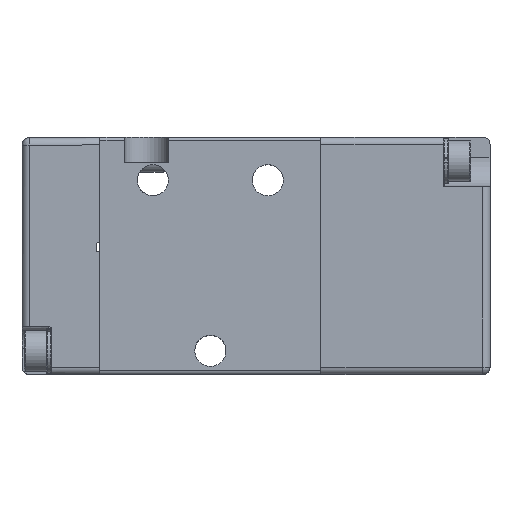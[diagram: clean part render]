
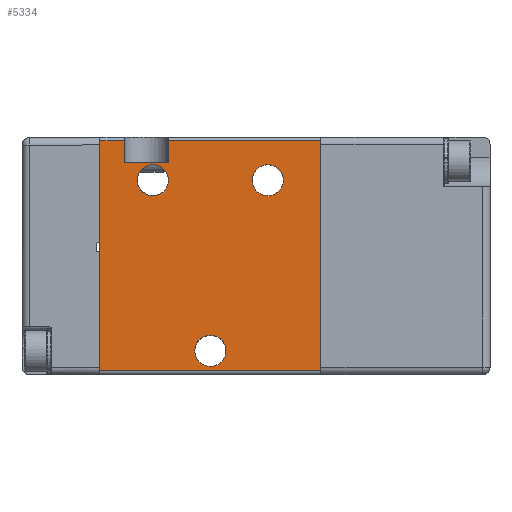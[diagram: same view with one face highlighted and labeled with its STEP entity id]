
A CAD part, top view. The second image highlights one B-rep face of the part: STEP entity #5334.
In plain terms, the highlighted planar face has unit normal (0, 0, 1).
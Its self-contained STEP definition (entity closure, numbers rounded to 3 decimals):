
#58 = VERTEX_POINT ( 'NONE', #9279 ) ;
#59 = VERTEX_POINT ( 'NONE', #9280 ) ;
#93 = VERTEX_POINT ( 'NONE', #12115 ) ;
#679 = VECTOR ( 'NONE', #4085, 1000. ) ;
#681 = LINE ( 'NONE', #4086, #679 ) ;
#724 = VECTOR ( 'NONE', #3807, 1000. ) ;
#728 = LINE ( 'NONE', #3811, #724 ) ;
#735 = VECTOR ( 'NONE', #3889, 1000. ) ;
#747 = VECTOR ( 'NONE', #3604, 1000. ) ;
#751 = LINE ( 'NONE', #3948, #747 ) ;
#753 = CIRCLE ( 'NONE', #10929, 2.1 ) ;
#755 = CIRCLE ( 'NONE', #10928, 2.1 ) ;
#771 = LINE ( 'NONE', #3879, #735 ) ;
#803 = VECTOR ( 'NONE', #3717, 1000. ) ;
#806 = LINE ( 'NONE', #3724, #803 ) ;
#817 = VECTOR ( 'NONE', #3772, 1000. ) ;
#818 = LINE ( 'NONE', #3570, #817 ) ;
#840 = VECTOR ( 'NONE', #2272, 1000. ) ;
#843 = LINE ( 'NONE', #2277, #840 ) ;
#2087 = VECTOR ( 'NONE', #2792, 1000. ) ;
#2094 = LINE ( 'NONE', #2782, #2087 ) ;
#2178 = CIRCLE ( 'NONE', #11018, 2.1 ) ;
#2266 = CARTESIAN_POINT ( 'NONE',  ( -14.9, 14.3, 11. ) ) ;
#2272 = DIRECTION ( 'NONE',  ( 1., 0., 0. ) ) ;
#2277 = CARTESIAN_POINT ( 'NONE',  ( -53.733, -16.7, 11. ) ) ;
#2445 = CARTESIAN_POINT ( 'NONE',  ( -5.6, 14.3, 11. ) ) ;
#2600 = CARTESIAN_POINT ( 'NONE',  ( -11.6, 14.3, 11. ) ) ;
#2782 = CARTESIAN_POINT ( 'NONE',  ( -53.733, 14.3, 11. ) ) ;
#2792 = DIRECTION ( 'NONE',  ( -1., 0., 0. ) ) ;
#2963 = DIRECTION ( 'NONE',  ( 1., 0., 0. ) ) ;
#2964 = DIRECTION ( 'NONE',  ( 0., 0., 1. ) ) ;
#2965 = CARTESIAN_POINT ( 'NONE',  ( -7.75, 9., 11. ) ) ;
#2974 = CARTESIAN_POINT ( 'NONE',  ( -14.9, -16.7, 11. ) ) ;
#2984 = CARTESIAN_POINT ( 'NONE',  ( 14.9, 14.3, 11. ) ) ;
#3101 = CARTESIAN_POINT ( 'NONE',  ( -5.6, 11.4, 11. ) ) ;
#3132 = CARTESIAN_POINT ( 'NONE',  ( 14.9, -16.7, 11. ) ) ;
#3133 = CARTESIAN_POINT ( 'NONE',  ( -11.6, 11.4, 11. ) ) ;
#3570 = CARTESIAN_POINT ( 'NONE',  ( -53.733, 14.3, 11. ) ) ;
#3604 = DIRECTION ( 'NONE',  ( 0., 1., 0. ) ) ;
#3717 = DIRECTION ( 'NONE',  ( 0., 1., 0. ) ) ;
#3724 = CARTESIAN_POINT ( 'NONE',  ( -11.6, 11.4, 11. ) ) ;
#3772 = DIRECTION ( 'NONE',  ( -1., 0., 0. ) ) ;
#3807 = DIRECTION ( 'NONE',  ( 0., 1., 0. ) ) ;
#3811 = CARTESIAN_POINT ( 'NONE',  ( -14.9, -17.2, 11. ) ) ;
#3879 = CARTESIAN_POINT ( 'NONE',  ( -5.6, 11.4, 11. ) ) ;
#3889 = DIRECTION ( 'NONE',  ( 1., 0., 0. ) ) ;
#3927 = DIRECTION ( 'NONE',  ( 1., 0., 0. ) ) ;
#3935 = CARTESIAN_POINT ( 'NONE',  ( 7.75, 9., 11. ) ) ;
#3948 = CARTESIAN_POINT ( 'NONE',  ( 14.9, -17.2, 11. ) ) ;
#3951 = DIRECTION ( 'NONE',  ( 0., 0., 1. ) ) ;
#3952 = CARTESIAN_POINT ( 'NONE',  ( 0., -14., 11. ) ) ;
#4033 = DIRECTION ( 'NONE',  ( 1., 0., 0. ) ) ;
#4085 = DIRECTION ( 'NONE',  ( 0., 1., 0. ) ) ;
#4086 = CARTESIAN_POINT ( 'NONE',  ( -5.6, 11.4, 11. ) ) ;
#4087 = DIRECTION ( 'NONE',  ( 0., 0., 1. ) ) ;
#4484 = FACE_BOUND ( 'NONE', #7850, .T. ) ;
#4743 = FACE_BOUND ( 'NONE', #7871, .T. ) ;
#4753 = FACE_BOUND ( 'NONE', #7861, .T. ) ;
#4759 = FACE_OUTER_BOUND ( 'NONE', #7868, .T. ) ;
#5334 = ADVANCED_FACE ( 'NONE', ( #4484, #4743, #4753, #4759 ), #6386, .F. ) ;
#6376 = DIRECTION ( 'NONE',  ( -1., 0., 0. ) ) ;
#6377 = DIRECTION ( 'NONE',  ( 0., 0., -1. ) ) ;
#6378 = CARTESIAN_POINT ( 'NONE',  ( -53.733, -17.2, 11. ) ) ;
#6386 = PLANE ( 'NONE',  #10508 ) ;
#6587 = ORIENTED_EDGE ( 'NONE', *, *, #11644, .F. ) ;
#6590 = ORIENTED_EDGE ( 'NONE', *, *, #11646, .F. ) ;
#6596 = ORIENTED_EDGE ( 'NONE', *, *, #11440, .F. ) ;
#6600 = ORIENTED_EDGE ( 'NONE', *, *, #11662, .F. ) ;
#6601 = ORIENTED_EDGE ( 'NONE', *, *, #11654, .F. ) ;
#6609 = ORIENTED_EDGE ( 'NONE', *, *, #11591, .T. ) ;
#6611 = ORIENTED_EDGE ( 'NONE', *, *, #11491, .T. ) ;
#6636 = ORIENTED_EDGE ( 'NONE', *, *, #11606, .T. ) ;
#6675 = ORIENTED_EDGE ( 'NONE', *, *, #11700, .F. ) ;
#6678 = ORIENTED_EDGE ( 'NONE', *, *, #11616, .T. ) ;
#7261 = ORIENTED_EDGE ( 'NONE', *, *, #11647, .T. ) ;
#7850 = EDGE_LOOP ( 'NONE', ( #6587 ) ) ;
#7861 = EDGE_LOOP ( 'NONE', ( #6596 ) ) ;
#7868 = EDGE_LOOP ( 'NONE', ( #6601, #6678, #6636, #6600, #6609, #7261, #6611, #6675 ) ) ;
#7871 = EDGE_LOOP ( 'NONE', ( #6590 ) ) ;
#8101 = VERTEX_POINT ( 'NONE', #2984 ) ;
#8241 = VERTEX_POINT ( 'NONE', #2266 ) ;
#8360 = VERTEX_POINT ( 'NONE', #2600 ) ;
#8412 = VERTEX_POINT ( 'NONE', #2974 ) ;
#8488 = VERTEX_POINT ( 'NONE', #2445 ) ;
#8570 = VERTEX_POINT ( 'NONE', #3133 ) ;
#8572 = VERTEX_POINT ( 'NONE', #3132 ) ;
#8598 = VERTEX_POINT ( 'NONE', #3101 ) ;
#9279 = CARTESIAN_POINT ( 'NONE',  ( 9.85, 9., 11. ) ) ;
#9280 = CARTESIAN_POINT ( 'NONE',  ( 2.1, -14., 11. ) ) ;
#10508 = AXIS2_PLACEMENT_3D ( 'NONE', #6378, #6377, #6376 ) ;
#10928 = AXIS2_PLACEMENT_3D ( 'NONE', #3952, #3951, #4033 ) ;
#10929 = AXIS2_PLACEMENT_3D ( 'NONE', #3935, #4087, #3927 ) ;
#11018 = AXIS2_PLACEMENT_3D ( 'NONE', #2965, #2964, #2963 ) ;
#11440 = EDGE_CURVE ( 'NONE', #93, #93, #2178, .T. ) ;
#11491 = EDGE_CURVE ( 'NONE', #8101, #8488, #2094, .T. ) ;
#11591 = EDGE_CURVE ( 'NONE', #8412, #8572, #843, .T. ) ;
#11606 = EDGE_CURVE ( 'NONE', #8360, #8241, #818, .T. ) ;
#11616 = EDGE_CURVE ( 'NONE', #8570, #8360, #806, .T. ) ;
#11644 = EDGE_CURVE ( 'NONE', #59, #59, #755, .T. ) ;
#11646 = EDGE_CURVE ( 'NONE', #58, #58, #753, .T. ) ;
#11647 = EDGE_CURVE ( 'NONE', #8572, #8101, #751, .T. ) ;
#11654 = EDGE_CURVE ( 'NONE', #8570, #8598, #771, .T. ) ;
#11662 = EDGE_CURVE ( 'NONE', #8412, #8241, #728, .T. ) ;
#11700 = EDGE_CURVE ( 'NONE', #8598, #8488, #681, .T. ) ;
#12115 = CARTESIAN_POINT ( 'NONE',  ( -5.65, 9., 11. ) ) ;
